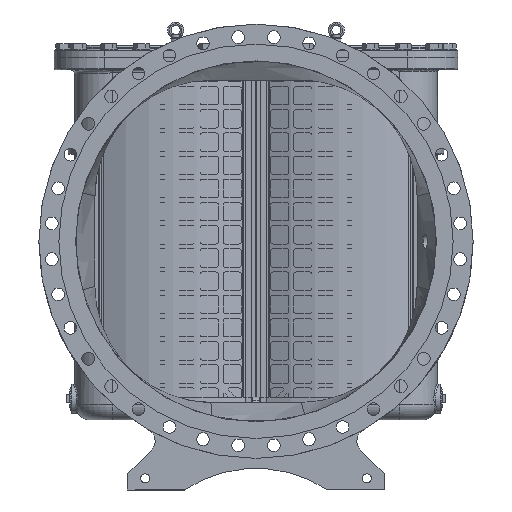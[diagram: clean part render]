
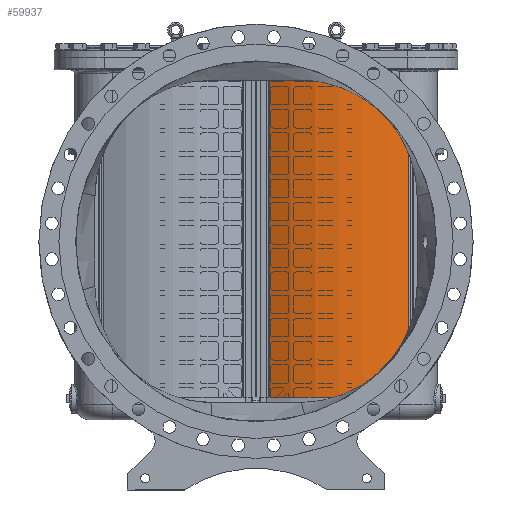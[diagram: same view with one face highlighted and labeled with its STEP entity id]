
A CAD part, front view. The second image highlights one B-rep face of the part: STEP entity #59937.
In plain terms, the highlighted cylindrical face has radius 590 mm (diameter 1180 mm), a partial arc.
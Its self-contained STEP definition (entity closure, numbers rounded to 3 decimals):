
#8728=FACE_OUTER_BOUND('',#12466,.T.);
#12466=EDGE_LOOP('',(#52095,#52096,#52097,#52098));
#16352=LINE('',#120936,#20494);
#16354=LINE('',#120939,#20496);
#20494=VECTOR('',#77484,10.);
#20496=VECTOR('',#77488,10.);
#23645=CIRCLE('',#65014,590.);
#23648=CIRCLE('',#65019,590.);
#28593=VERTEX_POINT('',#120905);
#28594=VERTEX_POINT('',#120907);
#28598=VERTEX_POINT('',#120919);
#28599=VERTEX_POINT('',#120921);
#36620=EDGE_CURVE('',#28594,#28593,#23645,.T.);
#36627=EDGE_CURVE('',#28599,#28598,#23648,.T.);
#36635=EDGE_CURVE('',#28594,#28598,#16352,.T.);
#36637=EDGE_CURVE('',#28599,#28593,#16354,.T.);
#52095=ORIENTED_EDGE('',*,*,#36620,.T.);
#52096=ORIENTED_EDGE('',*,*,#36637,.F.);
#52097=ORIENTED_EDGE('',*,*,#36627,.T.);
#52098=ORIENTED_EDGE('',*,*,#36635,.F.);
#57243=CYLINDRICAL_SURFACE('',#65025,590.);
#59937=ADVANCED_FACE('',(#8728),#57243,.T.);
#65014=AXIS2_PLACEMENT_3D('',#120908,#77455,#77456);
#65019=AXIS2_PLACEMENT_3D('',#120922,#77469,#77470);
#65025=AXIS2_PLACEMENT_3D('',#120938,#77486,#77487);
#77455=DIRECTION('center_axis',(0.,0.,-1.));
#77456=DIRECTION('ref_axis',(0.466,0.885,0.));
#77469=DIRECTION('center_axis',(0.,0.,
1.));
#77470=DIRECTION('ref_axis',(0.466,0.885,0.));
#77484=DIRECTION('',(0.,0.,-1.));
#77486=DIRECTION('center_axis',(0.,0.,1.));
#77487=DIRECTION('ref_axis',(0.466,0.885,0.));
#77488=DIRECTION('',(0.,0.,1.));
#120905=CARTESIAN_POINT('',(271.759,523.686,1364.));
#120907=CARTESIAN_POINT('',(-271.759,523.686,1364.));
#120908=CARTESIAN_POINT('Origin',(0.,0.,1364.));
#120919=CARTESIAN_POINT('',(-271.759,523.686,16.));
#120921=CARTESIAN_POINT('',(271.759,523.686,16.));
#120922=CARTESIAN_POINT('Origin',(0.,0.,16.));
#120936=CARTESIAN_POINT('',(-271.759,523.686,0.));
#120938=CARTESIAN_POINT('Origin',(0.,0.,0.));
#120939=CARTESIAN_POINT('',(271.759,523.686,0.));
